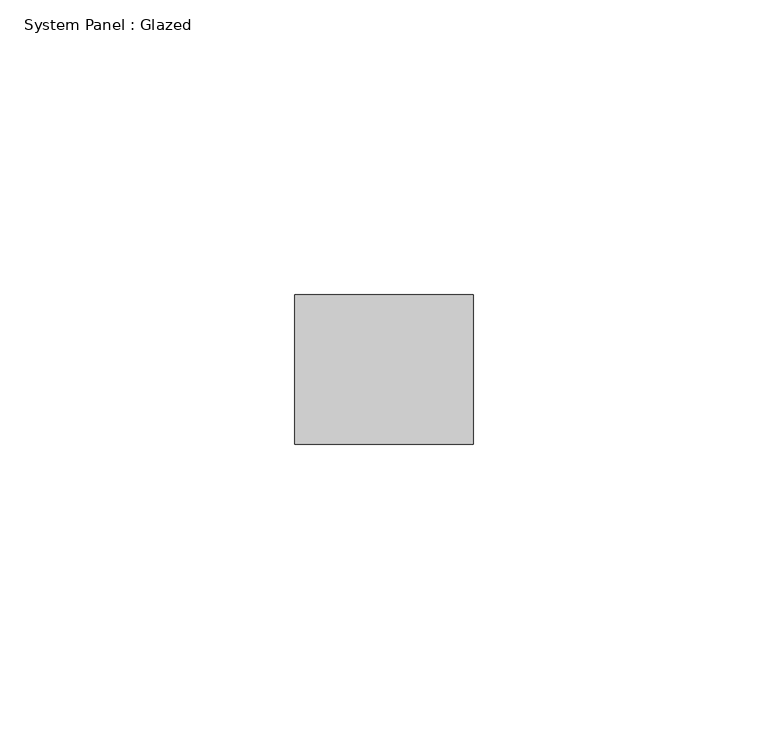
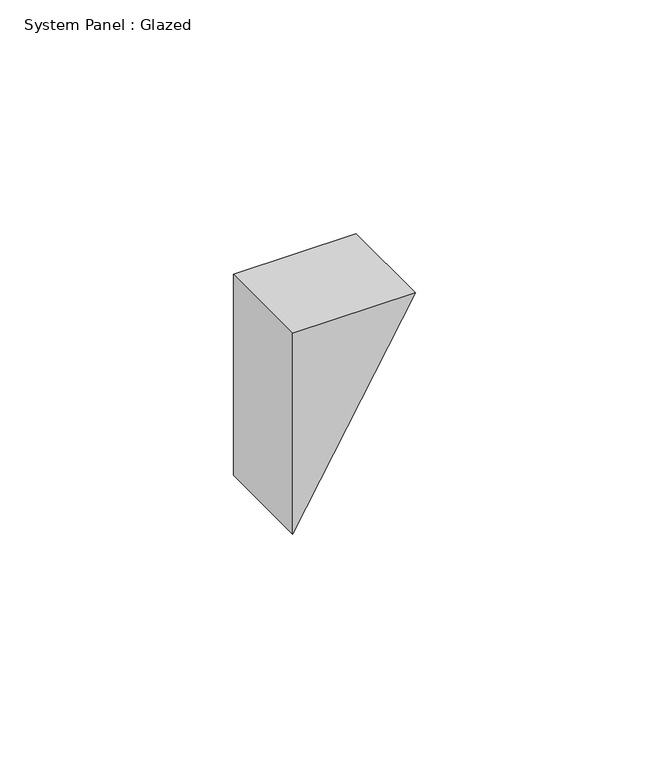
"""IFC4 building model written with IfcOpenShell, lengths in millimetres: plate geometry, System Panel : Glazed."""

import ifcopenshell
import ifcopenshell.guid

model = None  # the IFC model being written
_history = None  # IfcOwnerHistory: only IFC2X3 demands one
_inside = {}  # id of a spatial element -> (the spatial element, [elements in it])
_under = {}  # id of a project, library or spatial element -> (it, [spatial elements below it])
_declared = {}  # id of a project -> (the project, [libraries it declares])
_typed = {}  # id of a type object -> (the type object, [elements of that type])
_made_of = {}  # id of a material, layer set ... -> (it, [elements and type objects made of it])


def new_model(schema):
    """Start an empty IFC model of exactly this schema.

    Asked for "IFC4X3", IfcOpenShell would pick the latest addendum, in which some entities
    have other attributes; the version numbers below select the first issue.
    IFC2X3 requires an IfcOwnerHistory on every rooted entity: one is made here for all.
    """
    global model, _history
    if schema == "IFC4X3":
        model = ifcopenshell.file(schema_version=(4, 3, 0, 0))
    else:
        model = ifcopenshell.file(schema=schema)
    _inside.clear()
    _under.clear()
    _declared.clear()
    _typed.clear()
    _made_of.clear()
    _history = None
    if model.schema == "IFC2X3":
        org = make("IfcOrganization", Name="unknown")
        user = make(
            "IfcPersonAndOrganization",
            ThePerson=make("IfcPerson", FamilyName="unknown"),
            TheOrganization=org,
        )
        app = make(
            "IfcApplication",
            ApplicationDeveloper=org,
            Version="unknown",
            ApplicationFullName="unknown",
            ApplicationIdentifier="unknown",
        )
        _history = make(
            "IfcOwnerHistory",
            OwningUser=user,
            OwningApplication=app,
            ChangeAction="ADDED",
            CreationDate=0,
        )
    return model


def make(cls, **values):
    """One entity of the class cls with the attributes given. An attribute that is None is left unset."""
    return model.create_entity(
        cls, **{name: value for name, value in values.items() if value is not None}
    )


def rooted(cls, **values):
    """An entity with a GlobalId (a new one), such as an element, a storey or a relation."""
    return make(cls, GlobalId=ifcopenshell.guid.new(), OwnerHistory=_history, **values)


def si_unit(unit_type, name, prefix=None):
    """IfcSIUnit, for example si_unit("LENGTHUNIT", "METRE", prefix="MILLI")."""
    return make("IfcSIUnit", UnitType=unit_type, Prefix=prefix, Name=name)


def assignment(units):
    """IfcUnitAssignment: the units of a project."""
    return None if units is None else make("IfcUnitAssignment", Units=units)


def point(xyz):
    """IfcCartesianPoint."""
    return None if xyz is None else make("IfcCartesianPoint", Coordinates=xyz)


def direction(xyz):
    """IfcDirection."""
    return None if xyz is None else make("IfcDirection", DirectionRatios=xyz)


def frame(location, z_axis=None, x_axis=None):
    """IfcAxis2Placement3D, a coordinate frame: its origin and axes. An axis left out is left unset."""
    return make(
        "IfcAxis2Placement3D",
        Location=point(location),
        Axis=direction(z_axis),
        RefDirection=direction(x_axis),
    )


def origin():
    """The frame at (0, 0, 0) with its axes left unset."""
    return frame((0.0, 0.0, 0.0))


def place(relative_to, where):
    """IfcLocalPlacement: puts the frame where relative to a parent placement (None: the world)."""
    return make(
        "IfcLocalPlacement", PlacementRelTo=relative_to, RelativePlacement=where
    )


def context(
    kind, dimensions, precision=None, world=None, true_north=None, identifier=None
):
    """IfcGeometricRepresentationContext, for example the 3D "Model" context."""
    return make(
        "IfcGeometricRepresentationContext",
        ContextIdentifier=identifier,
        ContextType=kind,
        CoordinateSpaceDimension=dimensions,
        Precision=precision,
        WorldCoordinateSystem=world,
        TrueNorth=true_north,
    )


def project(units=None, contexts=None):
    """IfcProject with its units and contexts."""
    return rooted(
        "IfcProject",
        Name="project",
        RepresentationContexts=contexts,
        UnitsInContext=assignment(units),
    )


def spatial(cls, under=None, at=None, **own):
    """A site, building, storey or space (cls), placed at a placement, below another one or the project."""
    s = rooted(cls, ObjectPlacement=at, **own)
    if under is not None:
        _under.setdefault(under.id(), (under, []))[1].append(s)
    return s


def polyline(points):
    """IfcPolyline through the points."""
    return make("IfcPolyline", Points=[point(p) for p in points])


def outline(outer, holes=None, kind="AREA"):
    """IfcArbitraryClosedProfileDef: a profile drawn as a closed curve; with holes, ...WithVoids."""
    if holes is None:
        return make("IfcArbitraryClosedProfileDef", ProfileType=kind, OuterCurve=outer)
    return make(
        "IfcArbitraryProfileDefWithVoids",
        ProfileType=kind,
        OuterCurve=outer,
        InnerCurves=holes,
    )


def extrude(swept, where, along, depth):
    """IfcExtrudedAreaSolid: the profile swept, set in the frame where, extruded along a direction by depth."""
    return make(
        "IfcExtrudedAreaSolid",
        SweptArea=swept,
        Position=where,
        ExtrudedDirection=direction(along),
        Depth=depth,
    )


def shape(context_of_items, identifier, shape_type, items):
    """IfcShapeRepresentation: the items that make up one representation, for example the "Body"."""
    return make(
        "IfcShapeRepresentation",
        ContextOfItems=context_of_items,
        RepresentationIdentifier=identifier,
        RepresentationType=shape_type,
        Items=items,
    )


def source(mapping_origin, context_of_items, identifier, shape_type, items):
    """IfcRepresentationMap: a shape defined once, which mapped items show again and again."""
    return make(
        "IfcRepresentationMap",
        MappingOrigin=mapping_origin,
        MappedRepresentation=shape(context_of_items, identifier, shape_type, items),
    )


def transform(
    local_origin,
    x_axis=None,
    y_axis=None,
    z_axis=None,
    scale=None,
    scale2=None,
    scale3=None,
    uniform=True,
):
    """IfcCartesianTransformationOperator3D, or its non-uniform kind. x_axis, y_axis, z_axis: its Axis1, 2, 3."""
    if uniform:
        return make(
            "IfcCartesianTransformationOperator3D",
            Axis1=direction(x_axis),
            Axis2=direction(y_axis),
            LocalOrigin=point(local_origin),
            Scale=scale,
            Axis3=direction(z_axis),
        )
    return make(
        "IfcCartesianTransformationOperator3DnonUniform",
        Axis1=direction(x_axis),
        Axis2=direction(y_axis),
        LocalOrigin=point(local_origin),
        Scale=scale,
        Axis3=direction(z_axis),
        Scale2=scale2,
        Scale3=scale3,
    )


def mapped(mapping_source, mapping_target):
    """IfcMappedItem: shows the shape of a source again, moved by a transform."""
    return make(
        "IfcMappedItem", MappingSource=mapping_source, MappingTarget=mapping_target
    )


def made_of(thing, what):
    """Note that an element or type object is made of a material, layer set ...; save() writes the relation."""
    if what is not None:
        _made_of.setdefault(what.id(), (what, []))[1].append(thing)
    return thing


def element(
    cls,
    number,
    at=None,
    inside=None,
    cuts=None,
    type_object=None,
    material=None,
    context=None,
    identifier="Body",
    shape_type=None,
    held_by="IfcProductDefinitionShape",
    body=None,
    shapes=None,
    **own,
):
    """One element of the class cls, such as IfcWall. Its Tag is "e" and its number.

    at: its placement. inside: the storey or other place that contains it. cuts: it is an
    opening in that element (IfcRelVoidsElement). A single representation is given by context,
    identifier, shape_type and body (its items); several are given by shapes. held_by: the class
    of the entity that holds the representations. save() writes the other relations.
    """
    e = rooted(cls, Tag="e%d" % number, ObjectPlacement=at, **own)
    if body is not None:
        shapes = [shape(context, identifier, shape_type, body)]
    if shapes is not None:
        e.Representation = make(held_by, Representations=shapes)
    if inside is not None:
        _inside.setdefault(inside.id(), (inside, []))[1].append(e)
    if cuts is not None:
        rooted(
            "IfcRelVoidsElement", RelatingBuildingElement=cuts, RelatedOpeningElement=e
        )
    if type_object is not None:
        _typed.setdefault(type_object.id(), (type_object, []))[1].append(e)
    return made_of(e, material)


def aggregate(whole, parts):
    """IfcRelAggregates: a whole, such as a stair, and the parts it consists of."""
    return rooted("IfcRelAggregates", RelatingObject=whole, RelatedObjects=parts)


def save(model, path):
    """Write the relations noted so far, then the file.

    IfcRelAggregates (storeys below a building ...), IfcRelContainedInSpatialStructure (elements
    in a storey), IfcRelDefinesByType, IfcRelAssociatesMaterial and IfcRelDeclares: one each for
    every whole, place, type object, material and project.
    """
    for whole, parts in _under.values():
        aggregate(whole, parts)
    for where, things in _inside.values():
        rooted(
            "IfcRelContainedInSpatialStructure",
            RelatedElements=things,
            RelatingStructure=where,
        )
    for kind, things in _typed.values():
        rooted("IfcRelDefinesByType", RelatedObjects=things, RelatingType=kind)
    for what, things in _made_of.values():
        rooted("IfcRelAssociatesMaterial", RelatedObjects=things, RelatingMaterial=what)
    for by, libraries in _declared.values():
        rooted("IfcRelDeclares", RelatingContext=by, RelatedDefinitions=libraries)
    model.write(path)


def system_panel_glazed_58931c70(model_context):
    return source(origin(), model_context, "Body", "SweptSolid", [
        extrude(outline(polyline([(52.5493408, -15.169688), (0.0, -15.169688), (52.5493408, 15.169688), (52.5493408, -15.169688)])), frame((0.0, 19.05, 0.0), z_axis=(0.0, 1.0, 0.0), x_axis=(0.0, 0.0, 1.0)), (0.0, 0.0, 1.0), 25.4),
    ])


if __name__ == "__main__":
    model = new_model("IFC4")
    model_context = context("Model", 3, world=origin())
    ifc_project = project(units=[si_unit("LENGTHUNIT", "METRE", prefix="MILLI")], contexts=[model_context])
    site = spatial("IfcSite", under=ifc_project)
    building = spatial("IfcBuilding", under=site)
    placement = place(None, origin())
    system_panel_glazed_shape = system_panel_glazed_58931c70(model_context)
    element("IfcPlate", 1, ObjectType="System Panel : Glazed", at=placement, inside=building, context=model_context, shape_type="MappedRepresentation", body=[
        mapped(system_panel_glazed_shape, transform((0.0, 0.0, 0.0), x_axis=(1.0, 0.0, 0.0), y_axis=(0.0, 1.0, 0.0), z_axis=(0.0, 0.0, 1.0))),
    ])
    save(model, "model.ifc")
